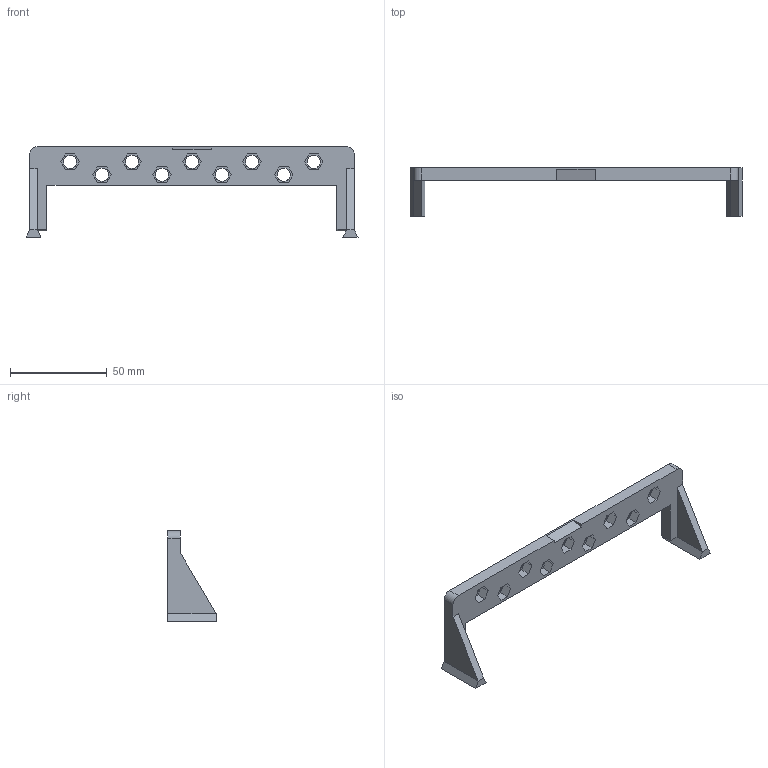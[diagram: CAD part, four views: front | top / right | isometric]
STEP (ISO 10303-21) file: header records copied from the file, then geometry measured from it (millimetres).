
FILE_DESCRIPTION(('HOOPS Exchange Step'),'2;1');
FILE_NAME('/private/var/mobile/Containers/Data/Application/FEB09317-4D42-4244-84D5-4744026CA7E9/tmp/export/temp_export','2021-11-26T22:09:58+01:00',('mobile'),('Shapr3D Limited'),'HOOPS Exchange 2021.1','Shapr3D','Authorized');
FILE_SCHEMA( ('AP203_CONFIGURATION_CONTROLLED_3D_DESIGN_OF_MECHANICAL_PARTS_AND_ASSEMBLIES_MIM_LF') );
Length unit declared in the file: millimetre
Products named in the file (1): /private/var/mobile/Containers/Data/Application/FEB09317-4D42-4244-84D5-4744026CA7E9/tmp/11A9B1BF-A8D8-4F13-9DAB-B111DF7596D0.tmp
Bounding box: 171.75 x 25 x 46.8 mm (x, y, z)
Volume: 24666.6 mm3; surface area: 13512.9 mm2
Topology: 1 solids, 1 shells, 109 faces, 312 edges, 214 vertices
Faces by surface type: plane 94, cylinder 15
Full cylindrical faces by diameter (mm): 6.8 x9
Entity records: 3622 total; most frequent: CARTESIAN_POINT 636, ORIENTED_EDGE 624, DIRECTION 584, EDGE_CURVE 312, VECTOR 260, LINE 260, VERTEX_POINT 214, AXIS2_PLACEMENT_3D 162
